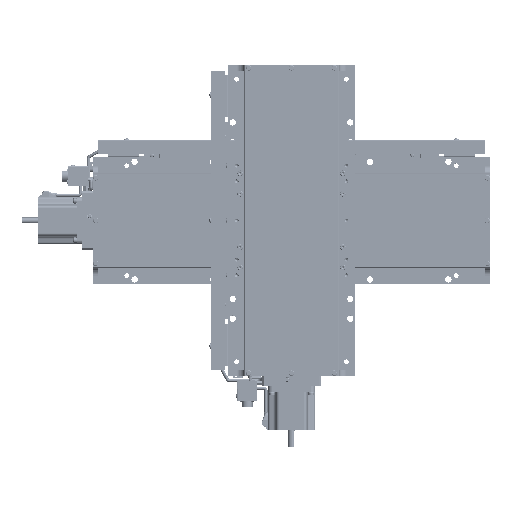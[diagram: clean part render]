
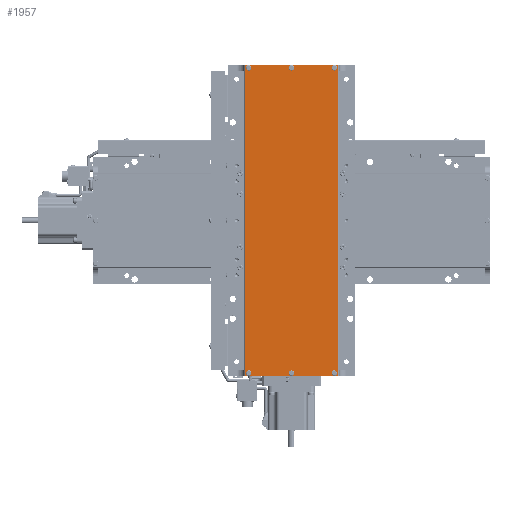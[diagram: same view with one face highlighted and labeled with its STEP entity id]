
A CAD part, top view. The second image highlights one B-rep face of the part: STEP entity #1957.
In plain terms, the highlighted planar face has unit normal (0, 0, 1).
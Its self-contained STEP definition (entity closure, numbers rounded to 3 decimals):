
#1957=ADVANCED_FACE('',(#23654,#23655,#23656,#23657,#23658,#23659,#23660),#23653,.T.);
#23653=PLANE('',#68702);
#23654=FACE_OUTER_BOUND('',#68703,.T.);
#23655=FACE_BOUND('',#68704,.T.);
#23656=FACE_BOUND('',#68705,.T.);
#23657=FACE_BOUND('',#68706,.T.);
#23658=FACE_BOUND('',#68707,.T.);
#23659=FACE_BOUND('',#68708,.T.);
#23660=FACE_BOUND('',#68709,.T.);
#68699=CARTESIAN_POINT('',(69.5,208.,125.5));
#68700=DIRECTION('',(0.,0.,1.));
#68701=DIRECTION('',(-1.,0.,0.));
#68702=AXIS2_PLACEMENT_3D('',#68699,#68700,#68701);
#68703=EDGE_LOOP('',(#99434,#99435,#99436,#99437,#99438,#99439));
#68704=EDGE_LOOP('',(#99440,#99441));
#68705=EDGE_LOOP('',(#99442,#99443));
#68706=EDGE_LOOP('',(#99444,#99445));
#68707=EDGE_LOOP('',(#99446,#99447));
#68708=EDGE_LOOP('',(#99448,#99449));
#68709=EDGE_LOOP('',(#99450,#99451));
#99434=ORIENTED_EDGE('',*,*,#120067,.T.);
#99435=ORIENTED_EDGE('',*,*,#120112,.T.);
#99436=ORIENTED_EDGE('',*,*,#120051,.T.);
#99437=ORIENTED_EDGE('',*,*,#120113,.T.);
#99438=ORIENTED_EDGE('',*,*,#120096,.F.);
#99439=ORIENTED_EDGE('',*,*,#120114,.T.);
#99440=ORIENTED_EDGE('',*,*,#120115,.F.);
#99441=ORIENTED_EDGE('',*,*,#120116,.F.);
#99442=ORIENTED_EDGE('',*,*,#120117,.F.);
#99443=ORIENTED_EDGE('',*,*,#120118,.F.);
#99444=ORIENTED_EDGE('',*,*,#120119,.F.);
#99445=ORIENTED_EDGE('',*,*,#120120,.F.);
#99446=ORIENTED_EDGE('',*,*,#120121,.F.);
#99447=ORIENTED_EDGE('',*,*,#120122,.F.);
#99448=ORIENTED_EDGE('',*,*,#120123,.F.);
#99449=ORIENTED_EDGE('',*,*,#120124,.F.);
#99450=ORIENTED_EDGE('',*,*,#120125,.F.);
#99451=ORIENTED_EDGE('',*,*,#120126,.F.);
#120051=EDGE_CURVE('',#159233,#159318,#159325,.T.);
#120067=EDGE_CURVE('',#159437,#159430,#159438,.T.);
#120096=EDGE_CURVE('',#159633,#159640,#159641,.T.);
#120112=EDGE_CURVE('',#159430,#159233,#159751,.T.);
#120113=EDGE_CURVE('',#159318,#159640,#159757,.T.);
#120114=EDGE_CURVE('',#159633,#159437,#159763,.T.);
#120115=EDGE_CURVE('',#159769,#159770,#159771,.T.);
#120116=EDGE_CURVE('',#159770,#159769,#159777,.T.);
#120117=EDGE_CURVE('',#159783,#159784,#159785,.T.);
#120118=EDGE_CURVE('',#159784,#159783,#159791,.T.);
#120119=EDGE_CURVE('',#159797,#159798,#159799,.T.);
#120120=EDGE_CURVE('',#159798,#159797,#159805,.T.);
#120121=EDGE_CURVE('',#159811,#159812,#159813,.T.);
#120122=EDGE_CURVE('',#159812,#159811,#159819,.T.);
#120123=EDGE_CURVE('',#159825,#159826,#159827,.T.);
#120124=EDGE_CURVE('',#159826,#159825,#159833,.T.);
#120125=EDGE_CURVE('',#159839,#159840,#159841,.T.);
#120126=EDGE_CURVE('',#159840,#159839,#159847,.T.);
#159233=VERTEX_POINT('',#231014);
#159318=VERTEX_POINT('',#231065);
#159325=LINE('',#231070,#231071);
#159430=VERTEX_POINT('',#231136);
#159437=VERTEX_POINT('',#231140);
#159438=LINE('',#231141,#231142);
#159633=VERTEX_POINT('',#231255);
#159640=VERTEX_POINT('',#231260);
#159641=LINE('',#231261,#231262);
#159751=LINE('',#231328,#231329);
#159757=LINE('',#231331,#231332);
#159763=LINE('',#231334,#231335);
#159769=VERTEX_POINT('',#231337);
#159770=VERTEX_POINT('',#231338);
#159771=CIRCLE('',#231342,3.495);
#159777=CIRCLE('',#231346,3.495);
#159783=VERTEX_POINT('',#231347);
#159784=VERTEX_POINT('',#231348);
#159785=CIRCLE('',#231352,3.495);
#159791=CIRCLE('',#231356,3.495);
#159797=VERTEX_POINT('',#231357);
#159798=VERTEX_POINT('',#231358);
#159799=CIRCLE('',#231362,3.495);
#159805=CIRCLE('',#231366,3.495);
#159811=VERTEX_POINT('',#231367);
#159812=VERTEX_POINT('',#231368);
#159813=CIRCLE('',#231372,3.495);
#159819=CIRCLE('',#231376,3.495);
#159825=VERTEX_POINT('',#231377);
#159826=VERTEX_POINT('',#231378);
#159827=CIRCLE('',#231382,3.495);
#159833=CIRCLE('',#231386,3.495);
#159839=VERTEX_POINT('',#231387);
#159840=VERTEX_POINT('',#231388);
#159841=CIRCLE('',#231392,3.495);
#159847=CIRCLE('',#231396,3.495);
#231014=CARTESIAN_POINT('',(35.,-198.,125.5));
#231065=CARTESIAN_POINT('',(59.5,-198.,125.5));
#231070=CARTESIAN_POINT('',(35.,-198.,125.5));
#231071=VECTOR('',#231072,24.5);
#231072=DIRECTION('',(1.,0.,0.));
#231136=CARTESIAN_POINT('',(-35.,-198.,125.5));
#231140=CARTESIAN_POINT('',(-59.5,-198.,125.5));
#231141=CARTESIAN_POINT('',(-59.5,-198.,125.5));
#231142=VECTOR('',#231143,24.5);
#231143=DIRECTION('',(1.,0.,0.));
#231255=CARTESIAN_POINT('',(-59.5,198.,125.5));
#231260=CARTESIAN_POINT('',(59.5,198.,125.5));
#231261=CARTESIAN_POINT('',(-59.5,198.,125.5));
#231262=VECTOR('',#231263,119.);
#231263=DIRECTION('',(1.,0.,0.));
#231328=CARTESIAN_POINT('',(-35.,-198.,125.5));
#231329=VECTOR('',#231330,70.);
#231330=DIRECTION('',(1.,0.,0.));
#231331=CARTESIAN_POINT('',(59.5,-198.,125.5));
#231332=VECTOR('',#231333,396.);
#231333=DIRECTION('',(0.,1.,0.));
#231334=CARTESIAN_POINT('',(-59.5,198.,125.5));
#231335=VECTOR('',#231336,396.);
#231336=DIRECTION('',(0.,-1.,0.));
#231337=CARTESIAN_POINT('',(3.495,194.5,125.5));
#231338=CARTESIAN_POINT('',(-3.495,194.5,125.5));
#231339=CARTESIAN_POINT('',(0.,194.5,125.5));
#231340=DIRECTION('',(0.,0.,1.));
#231341=DIRECTION('',(-1.,0.,0.));
#231342=AXIS2_PLACEMENT_3D('',#231339,#231340,#231341);
#231343=CARTESIAN_POINT('',(0.,194.5,125.5));
#231344=DIRECTION('',(0.,0.,1.));
#231345=DIRECTION('',(-1.,0.,0.));
#231346=AXIS2_PLACEMENT_3D('',#231343,#231344,#231345);
#231347=CARTESIAN_POINT('',(57.995,194.5,125.5));
#231348=CARTESIAN_POINT('',(51.005,194.5,125.5));
#231349=CARTESIAN_POINT('',(54.5,194.5,125.5));
#231350=DIRECTION('',(0.,0.,1.));
#231351=DIRECTION('',(-1.,0.,0.));
#231352=AXIS2_PLACEMENT_3D('',#231349,#231350,#231351);
#231353=CARTESIAN_POINT('',(54.5,194.5,125.5));
#231354=DIRECTION('',(0.,0.,1.));
#231355=DIRECTION('',(-1.,0.,0.));
#231356=AXIS2_PLACEMENT_3D('',#231353,#231354,#231355);
#231357=CARTESIAN_POINT('',(-51.005,-194.5,125.5));
#231358=CARTESIAN_POINT('',(-57.995,-194.5,125.5));
#231359=CARTESIAN_POINT('',(-54.5,-194.5,125.5));
#231360=DIRECTION('',(0.,0.,1.));
#231361=DIRECTION('',(-1.,0.,0.));
#231362=AXIS2_PLACEMENT_3D('',#231359,#231360,#231361);
#231363=CARTESIAN_POINT('',(-54.5,-194.5,125.5));
#231364=DIRECTION('',(0.,0.,1.));
#231365=DIRECTION('',(-1.,0.,0.));
#231366=AXIS2_PLACEMENT_3D('',#231363,#231364,#231365);
#231367=CARTESIAN_POINT('',(3.495,-194.5,125.5));
#231368=CARTESIAN_POINT('',(-3.495,-194.5,125.5));
#231369=CARTESIAN_POINT('',(0.,-194.5,125.5));
#231370=DIRECTION('',(0.,0.,1.));
#231371=DIRECTION('',(-1.,0.,0.));
#231372=AXIS2_PLACEMENT_3D('',#231369,#231370,#231371);
#231373=CARTESIAN_POINT('',(0.,-194.5,125.5));
#231374=DIRECTION('',(0.,0.,1.));
#231375=DIRECTION('',(-1.,0.,0.));
#231376=AXIS2_PLACEMENT_3D('',#231373,#231374,#231375);
#231377=CARTESIAN_POINT('',(57.995,-194.5,125.5));
#231378=CARTESIAN_POINT('',(51.005,-194.5,125.5));
#231379=CARTESIAN_POINT('',(54.5,-194.5,125.5));
#231380=DIRECTION('',(0.,0.,1.));
#231381=DIRECTION('',(-1.,0.,0.));
#231382=AXIS2_PLACEMENT_3D('',#231379,#231380,#231381);
#231383=CARTESIAN_POINT('',(54.5,-194.5,125.5));
#231384=DIRECTION('',(0.,0.,1.));
#231385=DIRECTION('',(-1.,0.,0.));
#231386=AXIS2_PLACEMENT_3D('',#231383,#231384,#231385);
#231387=CARTESIAN_POINT('',(-51.005,194.5,125.5));
#231388=CARTESIAN_POINT('',(-57.995,194.5,125.5));
#231389=CARTESIAN_POINT('',(-54.5,194.5,125.5));
#231390=DIRECTION('',(0.,0.,1.));
#231391=DIRECTION('',(-1.,0.,0.));
#231392=AXIS2_PLACEMENT_3D('',#231389,#231390,#231391);
#231393=CARTESIAN_POINT('',(-54.5,194.5,125.5));
#231394=DIRECTION('',(0.,0.,1.));
#231395=DIRECTION('',(-1.,0.,0.));
#231396=AXIS2_PLACEMENT_3D('',#231393,#231394,#231395);
